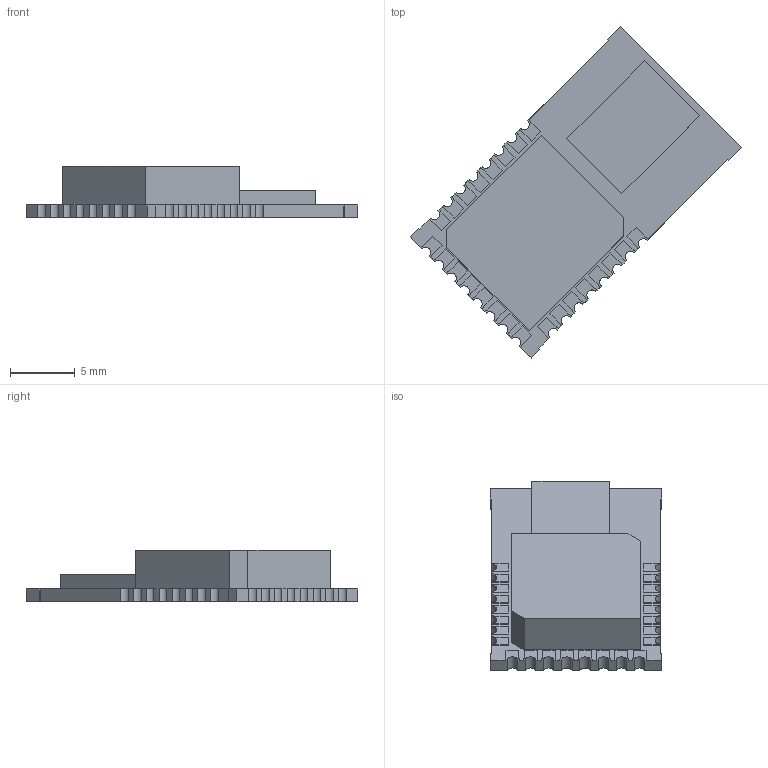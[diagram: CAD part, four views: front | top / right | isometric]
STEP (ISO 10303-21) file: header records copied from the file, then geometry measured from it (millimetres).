
FILE_DESCRIPTION(/* description */ ('STEP AP242 Edition 2','CAx-IF Rec.Pracs.---Representation and Presentation of Product Manufacturing Information (PMI)---4.0---2014-10-13','CAx-IF Rec.Pracs.---3D Tessellated Geometry---0.4---2014-09-14','2;1','CAx-IF Rec.Pracs.---User Defined Attributes---1.5---2016-08-15'),/* implementation_level */ '2;1');
FILE_NAME(/* name */ 'v2_assembly - DWM1000',/* time_stamp */ '2026-05-19T16:26:04Z',/* author */ (''),/* organization */ (''),/* preprocessor_version */ 'ST-DEVELOPER v20',/* originating_system */ 'ONSHAPE BY PTC INC, 1.215',/* authorisation */ ' ');
FILE_SCHEMA (('AP242_MANAGED_MODEL_BASED_3D_ENGINEERING_MIM_LF { 1 0 10303 442 3 1 4 }'));
Length unit declared in the file: metre
Products named in the file (1): DWM1000
Bounding box: 25.6 x 25.6 x 4 mm (x, y, z)
Volume: 686.8 mm3; surface area: 833 mm2
Topology: 1 solids, 1 shells, 218 faces, 642 edges, 428 vertices
Faces by surface type: plane 146, cylinder 72
Entity records: 7358 total; most frequent: CARTESIAN_POINT 1289, ORIENTED_EDGE 1284, DIRECTION 1224, EDGE_CURVE 642, LINE 498, VECTOR 498, VERTEX_POINT 428, AXIS2_PLACEMENT_3D 363
